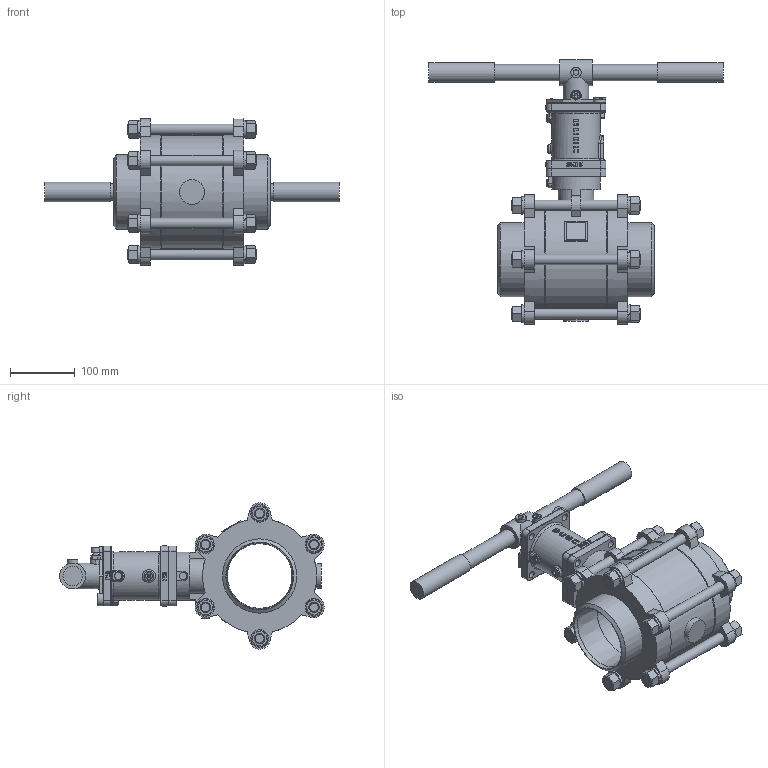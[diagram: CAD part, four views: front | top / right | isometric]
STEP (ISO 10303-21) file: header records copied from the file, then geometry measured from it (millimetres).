
FILE_DESCRIPTION(/* description */ ('Eriks item no: 14229949'),/* implementation_level */ '2;1');
FILE_NAME(/* name */ 'L:\DATA\ENG\Inventor\Econ 3D modellen\kogelkranen\7642 +7412\7642-DN100-FB + 7412-size5.stp',/* time_stamp */ '2024-01-22T16:08:03+01:00',/* author */ ('roger.thijssen'),/* organization */ (''),/* preprocessor_version */ 'ST-DEVELOPER v18',/* originating_system */ 'Autodesk Inventor 2020',/* authorisation */ '');
FILE_SCHEMA (('CONFIG_CONTROL_DESIGN'));
Length unit declared in the file: millimetre
Products named in the file (1): Ball valve + stem ext., 7642-DN100-FB + 7412-size5
Bounding box: 453 x 407.51 x 224.88 mm (x, y, z)
Volume: 4289723.4 mm3; surface area: 486713 mm2
Topology: 2 solids, 2 shells, 1178 faces, 3205 edges, 2081 vertices
Faces by surface type: plane 683, cylinder 255, bspline 125, cone 82, torus 30, sphere 3
Full cylindrical faces by diameter (mm): 4.917 x1, 5 x1, 6.25 x1, 8 x2, 8.376 x1, 8.6 x1, 10 x2, 11 x13, 12 x3, 13 x1, 15 x1, 16 x19, 17 x14, 19.2 x1, 25.4 x2, 27.3 x1, 28.3 x1, 30 x2, 31 x1, 38 x1, 40 x3, 60 x1, 70 x2, 75 x2, 100 x1, 102.3 x2, 114.3 x2, 174 x1, 176 x2
Entity records: 40565 total; most frequent: CARTESIAN_POINT 10491, ORIENTED_EDGE 6404, DIRECTION 5654, EDGE_CURVE 3202, VERTEX_POINT 2081, AXIS2_PLACEMENT_3D 1950, LINE 1754, VECTOR 1754
